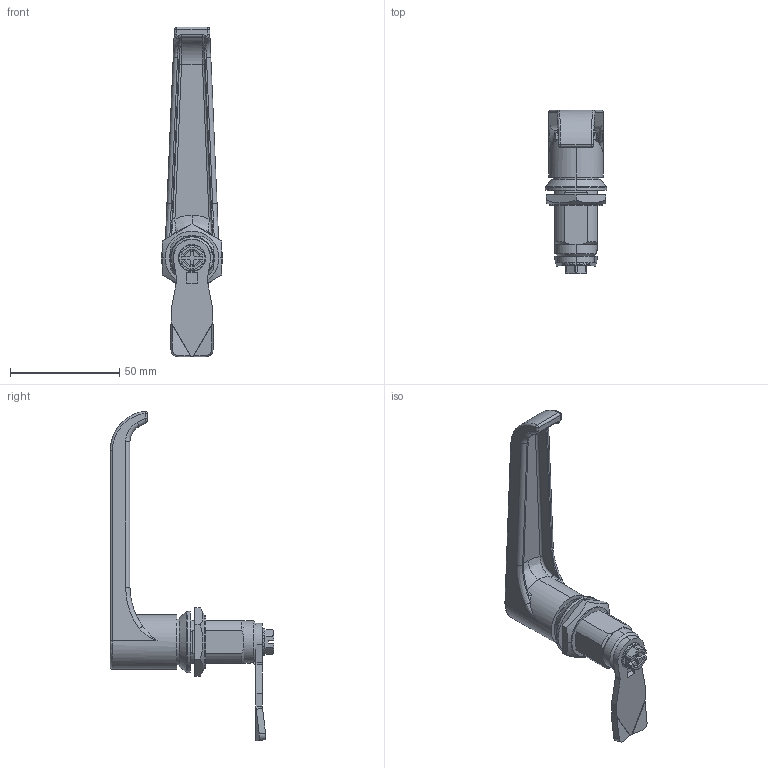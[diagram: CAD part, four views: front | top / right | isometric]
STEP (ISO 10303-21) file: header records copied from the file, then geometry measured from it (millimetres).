
FILE_DESCRIPTION (( 'STEP AP214' ), '1' );
FILE_NAME ('2.L30.005-006.STEP', '2016-09-08T10:45:21', ( '' ), ( '' ), 'SwSTEP 2.0', 'SolidWorks 2015', '' );
FILE_SCHEMA (( 'AUTOMOTIVE_DESIGN' ));
Length unit declared in the file: millimetre
Products named in the file (9): 2.L30.005-006; 2.L18.001.02_A; 2.NKR_M22 - A1; 1C.J-1XX.GH.L_#3, 1.65.18.45; DIN 6921_M6x8; 2.L18.010_A; 2.A001.007; DIN 3771_16,36x2.4; 2.K.PM30.001_B
Assembly tree (8 placements, depth 2):
  2.L30.005-006
    2.L18.001.02_A
    DIN 3771_16,36x2.4
    2.K.PM30.001_B
    2.NKR_M22 - A1
    1C.J-1XX.GH.L_#3, 1.65.18.45
    DIN 6921_M6x8
    2.L18.010_A
    2.A001.007
Bounding box: 28 x 74.75 x 150.65 mm (x, y, z)
Volume: 35358.8 mm3; surface area: 24445.4 mm2
Topology: 8 solids, 8 shells, 370 faces, 951 edges, 605 vertices
Faces by surface type: plane 188, cylinder 105, cone 35, bspline 31, torus 11
Entity records: 14292 total; most frequent: CARTESIAN_POINT 4347, ORIENTED_EDGE 1898, DIRECTION 1652, EDGE_CURVE 949, AXIS2_PLACEMENT_3D 609, VERTEX_POINT 605, VECTOR 434, LINE 434
